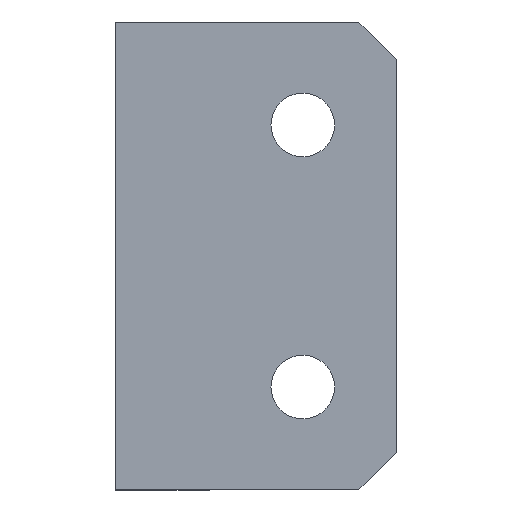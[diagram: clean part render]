
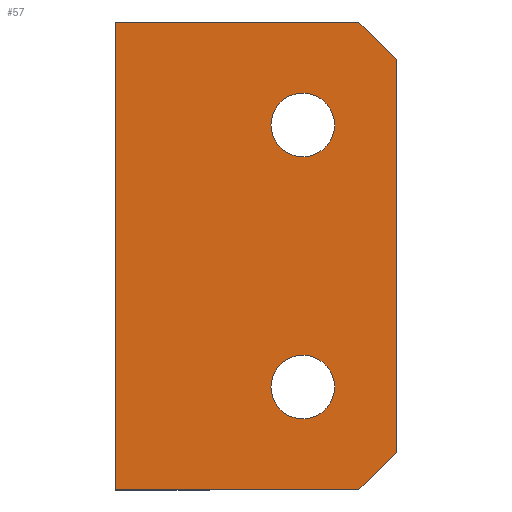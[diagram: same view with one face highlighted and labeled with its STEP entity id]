
A CAD part, front view. The second image highlights one B-rep face of the part: STEP entity #57.
In plain terms, the highlighted planar face has unit normal (0, -1, 0).
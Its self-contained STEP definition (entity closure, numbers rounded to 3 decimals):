
#6 = EDGE_CURVE ( 'NONE', #964, #13, #715, .T. ) ;
#10 = ORIENTED_EDGE ( 'NONE', *, *, #6, .T. ) ;
#13 = VERTEX_POINT ( 'NONE', #19 ) ;
#19 = CARTESIAN_POINT ( 'NONE',  ( 0., -34., -12.5 ) ) ;
#40 = CARTESIAN_POINT ( 'NONE',  ( 10., -34., -7. ) ) ;
#42 = EDGE_CURVE ( 'NONE', #456, #727, #240, .T. ) ;
#44 = DIRECTION ( 'NONE',  ( 0., 1., 0. ) ) ;
#57 = ADVANCED_FACE ( 'NONE', ( #558, #966, #875 ), #483, .F. ) ;
#65 = DIRECTION ( 'NONE',  ( 0., 1., 0. ) ) ;
#68 = VECTOR ( 'NONE', #862, 1000. ) ;
#80 = CARTESIAN_POINT ( 'NONE',  ( 10., -34., -7. ) ) ;
#105 = EDGE_CURVE ( 'NONE', #142, #797, #1016, .T. ) ;
#113 = CARTESIAN_POINT ( 'NONE',  ( 10., -34., -5.3 ) ) ;
#126 = CIRCLE ( 'NONE', #836, 1.7 ) ;
#128 = EDGE_LOOP ( 'NONE', ( #934, #261, #426, #619, #702, #10 ) ) ;
#142 = VERTEX_POINT ( 'NONE', #191 ) ;
#159 = CARTESIAN_POINT ( 'NONE',  ( 5., -34., 12.5 ) ) ;
#166 = DIRECTION ( 'NONE',  ( 0., 0., -1. ) ) ;
#168 = AXIS2_PLACEMENT_3D ( 'NONE', #512, #423, #913 ) ;
#191 = CARTESIAN_POINT ( 'NONE',  ( 10., -34., 5.3 ) ) ;
#232 = CARTESIAN_POINT ( 'NONE',  ( 5., -34., -12.5 ) ) ;
#237 = LINE ( 'NONE', #232, #68 ) ;
#240 = LINE ( 'NONE', #401, #316 ) ;
#243 = DIRECTION ( 'NONE',  ( 0., 0., 1. ) ) ;
#252 = CIRCLE ( 'NONE', #783, 1.7 ) ;
#261 = ORIENTED_EDGE ( 'NONE', *, *, #1001, .T. ) ;
#274 = LINE ( 'NONE', #688, #1021 ) ;
#316 = VECTOR ( 'NONE', #489, 1000. ) ;
#324 = CARTESIAN_POINT ( 'NONE',  ( 15., -34., -10.5 ) ) ;
#371 = DIRECTION ( 'NONE',  ( 0., 0., -1. ) ) ;
#373 = LINE ( 'NONE', #927, #854 ) ;
#380 = EDGE_CURVE ( 'NONE', #418, #13, #237, .T. ) ;
#396 = EDGE_LOOP ( 'NONE', ( #762, #609 ) ) ;
#401 = CARTESIAN_POINT ( 'NONE',  ( 15., -34., 10.5 ) ) ;
#404 = VERTEX_POINT ( 'NONE', #941 ) ;
#414 = EDGE_CURVE ( 'NONE', #466, #404, #432, .T. ) ;
#416 = CARTESIAN_POINT ( 'NONE',  ( 10., -34., 8.7 ) ) ;
#418 = VERTEX_POINT ( 'NONE', #788 ) ;
#423 = DIRECTION ( 'NONE',  ( 0., 1., 0. ) ) ;
#426 = ORIENTED_EDGE ( 'NONE', *, *, #520, .F. ) ;
#432 = CIRCLE ( 'NONE', #651, 1.7 ) ;
#456 = VERTEX_POINT ( 'NONE', #841 ) ;
#460 = DIRECTION ( 'NONE',  ( -1., 0., 0. ) ) ;
#466 = VERTEX_POINT ( 'NONE', #113 ) ;
#480 = EDGE_CURVE ( 'NONE', #404, #466, #252, .T. ) ;
#483 = PLANE ( 'NONE',  #746 ) ;
#489 = DIRECTION ( 'NONE',  ( -0.707, 0., 0.707 ) ) ;
#512 = CARTESIAN_POINT ( 'NONE',  ( 10., -34., 7. ) ) ;
#518 = CARTESIAN_POINT ( 'NONE',  ( 0., -34., 12.5 ) ) ;
#520 = EDGE_CURVE ( 'NONE', #456, #764, #274, .T. ) ;
#558 = FACE_BOUND ( 'NONE', #396, .T. ) ;
#564 = DIRECTION ( 'NONE',  ( 0., 1., 0. ) ) ;
#609 = ORIENTED_EDGE ( 'NONE', *, *, #480, .T. ) ;
#619 = ORIENTED_EDGE ( 'NONE', *, *, #42, .T. ) ;
#651 = AXIS2_PLACEMENT_3D ( 'NONE', #80, #65, #711 ) ;
#657 = CARTESIAN_POINT ( 'NONE',  ( 0., -34., 12.5 ) ) ;
#673 = VECTOR ( 'NONE', #460, 1000. ) ;
#688 = CARTESIAN_POINT ( 'NONE',  ( 15., -34., 12.5 ) ) ;
#689 = DIRECTION ( 'NONE',  ( 0.707, 0., 0.707 ) ) ;
#702 = ORIENTED_EDGE ( 'NONE', *, *, #704, .T. ) ;
#704 = EDGE_CURVE ( 'NONE', #727, #964, #872, .T. ) ;
#711 = DIRECTION ( 'NONE',  ( 0., 0., 1. ) ) ;
#715 = LINE ( 'NONE', #657, #935 ) ;
#723 = DIRECTION ( 'NONE',  ( 0., 1., 0. ) ) ;
#727 = VERTEX_POINT ( 'NONE', #1025 ) ;
#746 = AXIS2_PLACEMENT_3D ( 'NONE', #960, #564, #882 ) ;
#760 = DIRECTION ( 'NONE',  ( 0., 0., 1. ) ) ;
#762 = ORIENTED_EDGE ( 'NONE', *, *, #414, .T. ) ;
#764 = VERTEX_POINT ( 'NONE', #324 ) ;
#778 = EDGE_CURVE ( 'NONE', #797, #142, #126, .T. ) ;
#783 = AXIS2_PLACEMENT_3D ( 'NONE', #40, #44, #760 ) ;
#788 = CARTESIAN_POINT ( 'NONE',  ( 13., -34., -12.5 ) ) ;
#797 = VERTEX_POINT ( 'NONE', #416 ) ;
#836 = AXIS2_PLACEMENT_3D ( 'NONE', #969, #723, #243 ) ;
#841 = CARTESIAN_POINT ( 'NONE',  ( 15., -34., 10.5 ) ) ;
#854 = VECTOR ( 'NONE', #689, 1000. ) ;
#862 = DIRECTION ( 'NONE',  ( -1., 0., 0. ) ) ;
#872 = LINE ( 'NONE', #159, #673 ) ;
#875 = FACE_OUTER_BOUND ( 'NONE', #128, .T. ) ;
#882 = DIRECTION ( 'NONE',  ( 0., 0., 1. ) ) ;
#913 = DIRECTION ( 'NONE',  ( 0., 0., 1. ) ) ;
#927 = CARTESIAN_POINT ( 'NONE',  ( 15., -34., -10.5 ) ) ;
#934 = ORIENTED_EDGE ( 'NONE', *, *, #380, .F. ) ;
#935 = VECTOR ( 'NONE', #166, 1000. ) ;
#941 = CARTESIAN_POINT ( 'NONE',  ( 10., -34., -8.7 ) ) ;
#948 = ORIENTED_EDGE ( 'NONE', *, *, #778, .T. ) ;
#960 = CARTESIAN_POINT ( 'NONE',  ( 5., -34., 12.5 ) ) ;
#961 = ORIENTED_EDGE ( 'NONE', *, *, #105, .T. ) ;
#964 = VERTEX_POINT ( 'NONE', #518 ) ;
#966 = FACE_BOUND ( 'NONE', #1018, .T. ) ;
#969 = CARTESIAN_POINT ( 'NONE',  ( 10., -34., 7. ) ) ;
#1001 = EDGE_CURVE ( 'NONE', #418, #764, #373, .T. ) ;
#1016 = CIRCLE ( 'NONE', #168, 1.7 ) ;
#1018 = EDGE_LOOP ( 'NONE', ( #948, #961 ) ) ;
#1021 = VECTOR ( 'NONE', #371, 1000. ) ;
#1025 = CARTESIAN_POINT ( 'NONE',  ( 13., -34., 12.5 ) ) ;
